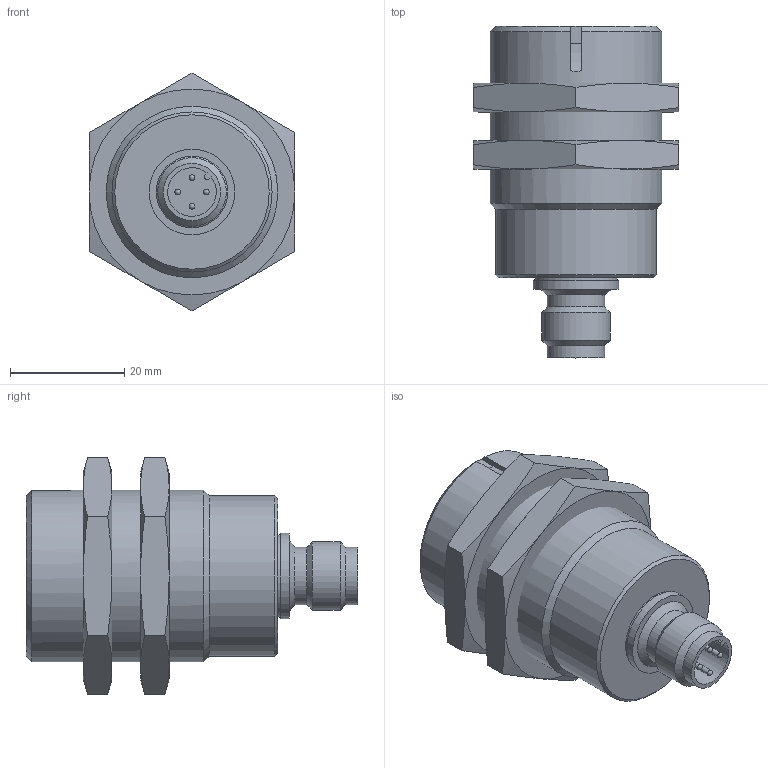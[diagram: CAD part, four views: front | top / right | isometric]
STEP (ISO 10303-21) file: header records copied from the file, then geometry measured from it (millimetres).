
FILE_DESCRIPTION(/* description */ ('Katalogmodell Elobau'),/* implementation_level */ '2;1');
FILE_NAME(/* name */ 'Katalogdaten.stp',/* time_stamp */ '2014-09-10T17:14:58+02:00',/* author */ ('Elobau GmbH & Co. KG'),/* organization */ ('Elobau GmbH & Co. KG'),/* preprocessor_version */ 'ST-DEVELOPER v15',/* originating_system */ 'SIEMENS PLM Software NX 8.5',/* authorisation */ '');
FILE_SCHEMA (('AUTOMOTIVE_DESIGN { 1 0 10303 214 3 1 1 1 }'));
Length unit declared in the file: millimetre
Products named in the file (1): 171271VZ_A
Bounding box: 36 x 58 x 41.57 mm (x, y, z)
Volume: 42057.8 mm3; surface area: 11883.6 mm2
Topology: 3 solids, 3 shells, 75 faces, 167 edges, 98 vertices
Faces by surface type: cone 30, plane 27, cylinder 14, sphere 4
Full cylindrical faces by diameter (mm): 1 x4, 10 x2, 12 x1, 14.5 x1, 15 x1, 28 x1, 30 x1
Entity records: 1942 total; most frequent: CARTESIAN_POINT 507, DIRECTION 275, ORIENTED_EDGE 266, EDGE_CURVE 133, AXIS2_PLACEMENT_3D 131, EDGE_LOOP 99, VERTEX_POINT 88, ADVANCED_FACE 75
